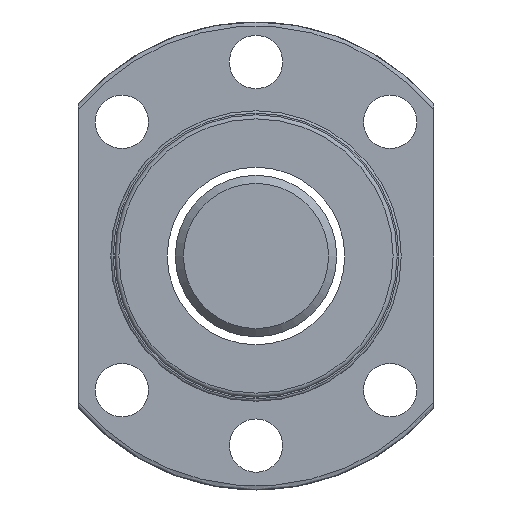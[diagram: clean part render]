
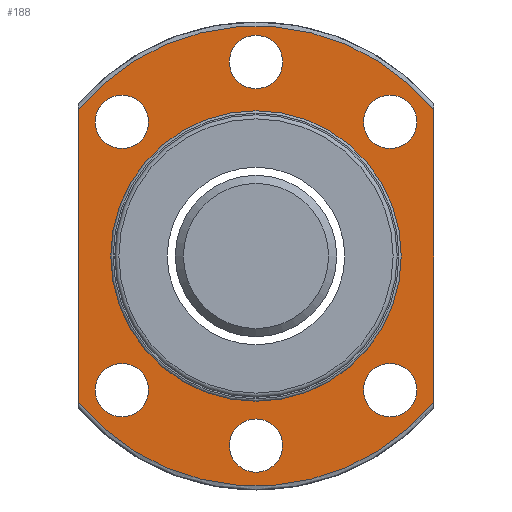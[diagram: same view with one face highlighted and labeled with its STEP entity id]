
A CAD part, left-side view. The second image highlights one B-rep face of the part: STEP entity #188.
In plain terms, the highlighted planar face has unit normal (-1, 0, 0).
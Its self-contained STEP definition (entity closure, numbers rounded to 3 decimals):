
#103=LINE('',#1336,#111);
#104=LINE('',#1337,#112);
#111=VECTOR('',#987,1.);
#112=VECTOR('',#988,1.);
#188=ADVANCED_FACE('',(#288,#289,#290,#291,#292,#293,#294,#242),#220,.F.);
#220=PLANE('',#814);
#242=FACE_OUTER_BOUND('',#384,.T.);
#288=FACE_BOUND('',#377,.T.);
#289=FACE_BOUND('',#378,.T.);
#290=FACE_BOUND('',#379,.T.);
#291=FACE_BOUND('',#380,.T.);
#292=FACE_BOUND('',#381,.T.);
#293=FACE_BOUND('',#382,.T.);
#294=FACE_BOUND('',#383,.T.);
#377=EDGE_LOOP('',(#498));
#378=EDGE_LOOP('',(#499));
#379=EDGE_LOOP('',(#500));
#380=EDGE_LOOP('',(#501));
#381=EDGE_LOOP('',(#502));
#382=EDGE_LOOP('',(#503));
#383=EDGE_LOOP('',(#504));
#384=EDGE_LOOP('',(#505,#506,#507,#508));
#498=ORIENTED_EDGE('',*,*,#674,.T.);
#499=ORIENTED_EDGE('',*,*,#675,.T.);
#500=ORIENTED_EDGE('',*,*,#676,.T.);
#501=ORIENTED_EDGE('',*,*,#677,.T.);
#502=ORIENTED_EDGE('',*,*,#678,.T.);
#503=ORIENTED_EDGE('',*,*,#679,.T.);
#504=ORIENTED_EDGE('',*,*,#680,.T.);
#505=ORIENTED_EDGE('',*,*,#672,.F.);
#506=ORIENTED_EDGE('',*,*,#681,.T.);
#507=ORIENTED_EDGE('',*,*,#654,.F.);
#508=ORIENTED_EDGE('',*,*,#682,.F.);
#590=VERTEX_POINT('',#1189);
#591=VERTEX_POINT('',#1209);
#605=VERTEX_POINT('',#1299);
#606=VERTEX_POINT('',#1301);
#607=VERTEX_POINT('',#1323);
#608=VERTEX_POINT('',#1325);
#609=VERTEX_POINT('',#1327);
#610=VERTEX_POINT('',#1329);
#611=VERTEX_POINT('',#1331);
#612=VERTEX_POINT('',#1333);
#613=VERTEX_POINT('',#1335);
#654=EDGE_CURVE('',#591,#590,#717,.T.);
#672=EDGE_CURVE('',#605,#606,#728,.T.);
#674=EDGE_CURVE('',#607,#607,#729,.T.);
#675=EDGE_CURVE('',#608,#608,#730,.T.);
#676=EDGE_CURVE('',#609,#609,#731,.T.);
#677=EDGE_CURVE('',#610,#610,#732,.T.);
#678=EDGE_CURVE('',#611,#611,#733,.T.);
#679=EDGE_CURVE('',#612,#612,#734,.T.);
#680=EDGE_CURVE('',#613,#613,#735,.T.);
#681=EDGE_CURVE('',#605,#590,#103,.T.);
#682=EDGE_CURVE('',#606,#591,#104,.T.);
#717=CIRCLE('',#790,28.5);
#728=CIRCLE('',#805,28.5);
#729=CIRCLE('',#807,18.);
#730=CIRCLE('',#808,3.3);
#731=CIRCLE('',#809,3.3);
#732=CIRCLE('',#810,3.3);
#733=CIRCLE('',#811,3.3);
#734=CIRCLE('',#812,3.3);
#735=CIRCLE('',#813,3.3);
#790=AXIS2_PLACEMENT_3D('',#1210,#935,#936);
#805=AXIS2_PLACEMENT_3D('',#1300,#969,#970);
#807=AXIS2_PLACEMENT_3D('',#1322,#973,#974);
#808=AXIS2_PLACEMENT_3D('',#1324,#975,#976);
#809=AXIS2_PLACEMENT_3D('',#1326,#977,#978);
#810=AXIS2_PLACEMENT_3D('',#1328,#979,#980);
#811=AXIS2_PLACEMENT_3D('',#1330,#981,#982);
#812=AXIS2_PLACEMENT_3D('',#1332,#983,#984);
#813=AXIS2_PLACEMENT_3D('',#1334,#985,#986);
#814=AXIS2_PLACEMENT_3D('',#1338,#989,#990);
#935=DIRECTION('',(1.,0.,0.));
#936=DIRECTION('',(0.,0.,-1.));
#969=DIRECTION('',(1.,0.,0.));
#970=DIRECTION('',(0.,0.,-1.));
#973=DIRECTION('',(1.,0.,0.));
#974=DIRECTION('',(0.,0.,-1.));
#975=DIRECTION('',(1.,0.,0.));
#976=DIRECTION('',(0.,0.,-1.));
#977=DIRECTION('',(1.,0.,0.));
#978=DIRECTION('',(0.,0.,-1.));
#979=DIRECTION('',(1.,0.,0.));
#980=DIRECTION('',(0.,0.,-1.));
#981=DIRECTION('',(1.,0.,0.));
#982=DIRECTION('',(0.,0.,-1.));
#983=DIRECTION('',(1.,0.,0.));
#984=DIRECTION('',(0.,0.,-1.));
#985=DIRECTION('',(1.,0.,0.));
#986=DIRECTION('',(0.,0.,-1.));
#987=DIRECTION('',(0.,0.,-1.));
#988=DIRECTION('',(0.,0.,-1.));
#989=DIRECTION('',(1.,0.,0.));
#990=DIRECTION('',(0.,0.,-1.));
#1189=CARTESIAN_POINT('',(-25.,22.,-18.118));
#1209=CARTESIAN_POINT('',(-25.,-22.,-18.118));
#1210=CARTESIAN_POINT('',(-25.,0.,0.));
#1299=CARTESIAN_POINT('',(-25.,22.,18.118));
#1300=CARTESIAN_POINT('',(-25.,0.,0.));
#1301=CARTESIAN_POINT('',(-25.,-22.,18.118));
#1322=CARTESIAN_POINT('',(-25.,0.,0.));
#1323=CARTESIAN_POINT('',(-25.,0.,-18.));
#1324=CARTESIAN_POINT('',(-25.,16.617,16.617));
#1325=CARTESIAN_POINT('',(-25.,16.617,13.317));
#1326=CARTESIAN_POINT('',(-25.,-16.617,16.617));
#1327=CARTESIAN_POINT('',(-25.,-16.617,13.317));
#1328=CARTESIAN_POINT('',(-25.,-16.617,-16.617));
#1329=CARTESIAN_POINT('',(-25.,-16.617,-19.917));
#1330=CARTESIAN_POINT('',(-25.,16.617,-16.617));
#1331=CARTESIAN_POINT('',(-25.,16.617,-19.917));
#1332=CARTESIAN_POINT('',(-25.,0.,24.042));
#1333=CARTESIAN_POINT('',(-25.,0.,20.742));
#1334=CARTESIAN_POINT('',(-25.,0.,-23.5));
#1335=CARTESIAN_POINT('',(-25.,0.,-26.8));
#1336=CARTESIAN_POINT('',(-25.,22.,0.));
#1337=CARTESIAN_POINT('',(-25.,-22.,0.));
#1338=CARTESIAN_POINT('',(-25.,23.25,0.));
